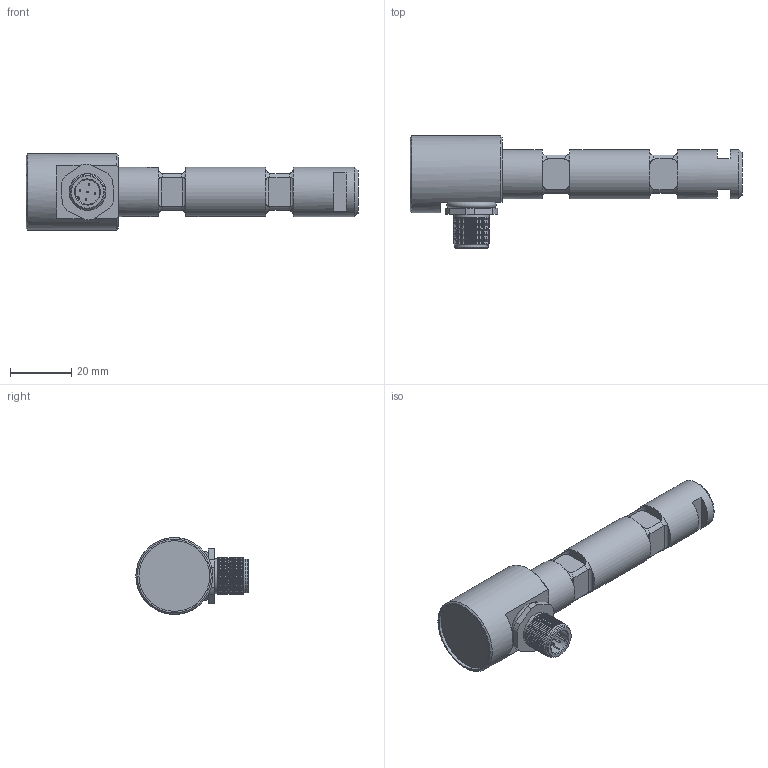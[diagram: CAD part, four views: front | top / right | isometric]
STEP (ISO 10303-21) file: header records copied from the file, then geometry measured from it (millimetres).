
FILE_DESCRIPTION(/* description */ ('Alibre Inc.'),/* implementation_level */ '2;1');
FILE_NAME(/* name */ 'export-39B9F3D2-4A7F-4BFD-BA82-F31A68A4A372',/* time_stamp */ '2022-05-24T08:52:34+02:00',/* author */ (''),/* organization */ (''),/* preprocessor_version */ 'ST-DEVELOPER v17',/* originating_system */ 'Alibre',/* authorisation */ '');
FILE_SCHEMA (('CONFIG_CONTROL_DESIGN'));
Length unit declared in the file: millimetre
Bounding box: 108 x 36.5 x 25 mm (x, y, z)
Surface area: 161472.5 mm2
Topology: 7 solids, 8 shells, 261 faces, 578 edges, 342 vertices
Faces by surface type: cylinder 89, plane 82, cone 72, torus 18
Full cylindrical faces by diameter (mm): 0.5 x10, 8 x2, 10 x1, 11 x1, 11.5 x1, 12 x21, 13 x2, 14.5 x1, 16 x3, 23 x1, 25 x1
Entity records: 7127 total; most frequent: CARTESIAN_POINT 2287, ORIENTED_EDGE 946, DIRECTION 757, EDGE_CURVE 467, EDGE_LOOP 378, FACE_BOUND 378, AXIS2_PLACEMENT_3D 350, VERTEX_POINT 327
